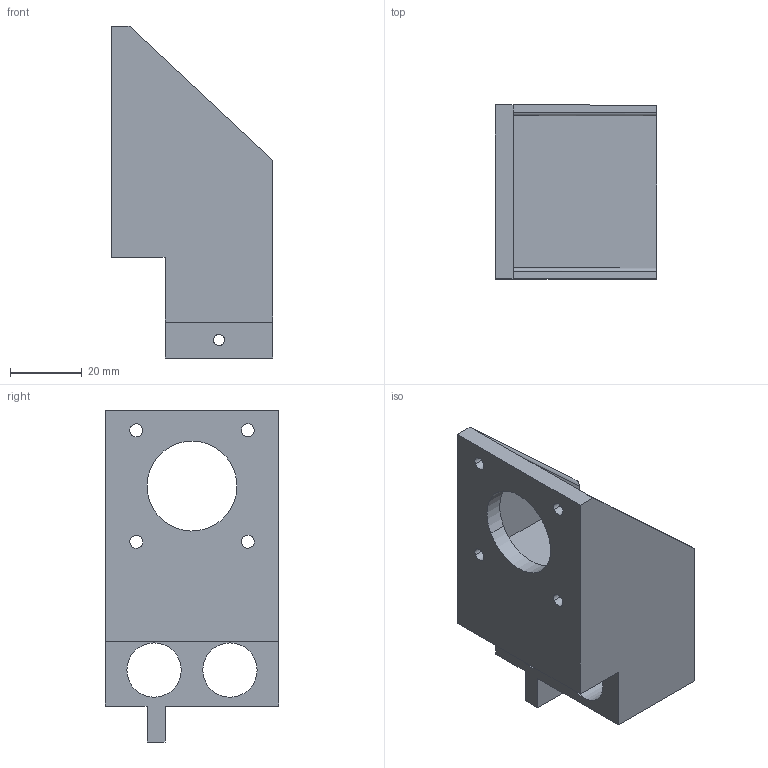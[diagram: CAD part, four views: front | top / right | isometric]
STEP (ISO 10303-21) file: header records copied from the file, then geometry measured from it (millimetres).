
FILE_DESCRIPTION(('CATIA V5 STEP Exchange'),'2;1');
FILE_NAME('C:\Users\user\Documents\Jakob\BAC - Arbeit 1\CAD Modell\CAD-Modell-Step files\stepper mount\stepper mount.stp','2018-12-13T14:11:46+00:00',('none'),('none'),'Version 5-6 Release 2012','CATIA V5 STEP AP203','none');
FILE_SCHEMA(('CONFIG_CONTROL_DESIGN'));
Length unit declared in the file: millimetre
Products named in the file (1): stepper mount
Bounding box: 45 x 48.3 x 92.3 mm (x, y, z)
Volume: 77790.4 mm3; surface area: 21818.6 mm2
Topology: 1 solids, 1 shells, 43 faces, 120 edges, 80 vertices
Faces by surface type: plane 25, cylinder 18
Entity records: 1402 total; most frequent: CARTESIAN_POINT 266, ORIENTED_EDGE 240, DIRECTION 182, EDGE_CURVE 120, VECTOR 84, LINE 84, VERTEX_POINT 80, AXIS2_PLACEMENT_3D 66
